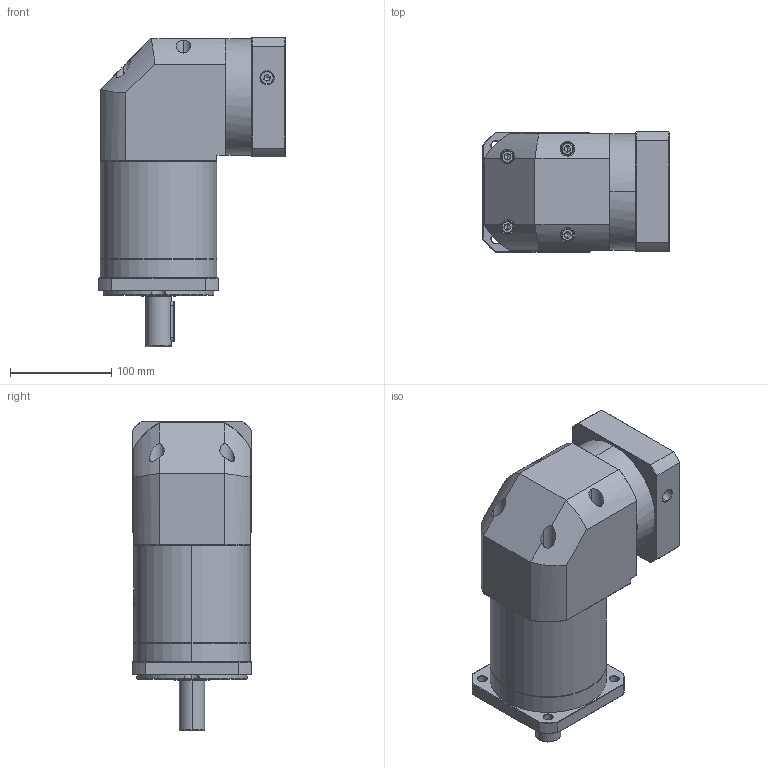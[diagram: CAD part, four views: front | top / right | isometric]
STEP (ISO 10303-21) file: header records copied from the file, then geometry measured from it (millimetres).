
FILE_DESCRIPTION (( 'STEP AP214' ), '1' );
FILE_NAME ('ZFR120A-D25-L3-P2-24-95-115-M6.step', '2023-08-27T08:05:53', ( '' ), ( '' ), 'SwSTEP 2.0', 'SolidWorks 2016', '' );
FILE_SCHEMA (( 'AUTOMOTIVE_DESIGN' ));
Length unit declared in the file: millimetre
Products named in the file (1): ZFR120A-D25-L3-P2-24-95-115-M6
Bounding box: 183.9 x 118 x 305 mm (x, y, z)
Volume: 3387420 mm3; surface area: 256299.2 mm2
Topology: 6 solids, 6 shells, 2252 faces, 5930 edges, 3782 vertices
Faces by surface type: plane 1060, bspline 428, cylinder 419, cone 337, torus 8
Entity records: 124335 total; most frequent: CARTESIAN_POINT 49453, ORIENTED_EDGE 11800, DIRECTION 8554, EDGE_CURVE 5900, VERTEX_POINT 3782, LINE 3138, VECTOR 3138, AXIS2_PLACEMENT_3D 2708
